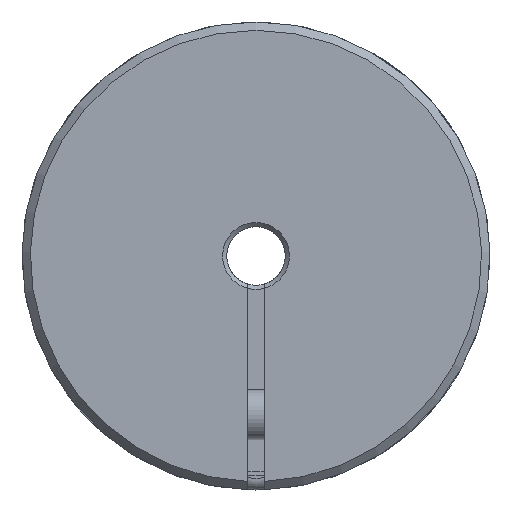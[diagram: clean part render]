
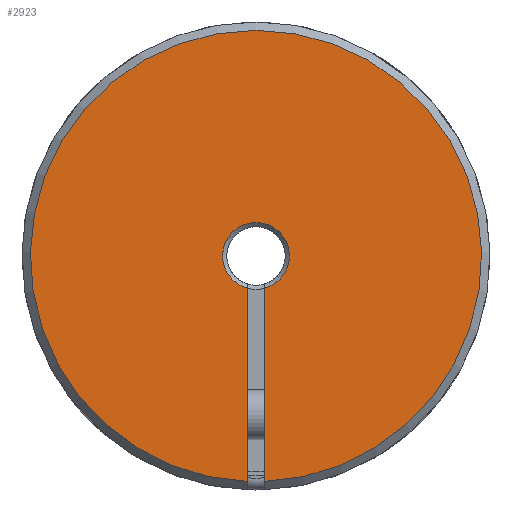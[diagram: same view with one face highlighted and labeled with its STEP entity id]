
A CAD part, left-side view. The second image highlights one B-rep face of the part: STEP entity #2923.
In plain terms, the highlighted planar face has unit normal (-1, 0, 0).
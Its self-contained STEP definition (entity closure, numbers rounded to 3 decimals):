
#122=PLANE('',#3241);
#319=LINE('',#4907,#545);
#320=LINE('',#4909,#546);
#545=VECTOR('',#3917,1000.);
#546=VECTOR('',#3918,1000.);
#1030=ORIENTED_EDGE('',*,*,#1657,.F.);
#1031=ORIENTED_EDGE('',*,*,#1655,.F.);
#1032=ORIENTED_EDGE('',*,*,#1658,.F.);
#1033=ORIENTED_EDGE('',*,*,#1659,.T.);
#1655=EDGE_CURVE('',#2004,#2005,#2169,.T.);
#1657=EDGE_CURVE('',#2005,#2006,#319,.T.);
#1658=EDGE_CURVE('',#2007,#2004,#320,.T.);
#1659=EDGE_CURVE('',#2007,#2006,#2170,.T.);
#2004=VERTEX_POINT('',#4899);
#2005=VERTEX_POINT('',#4901);
#2006=VERTEX_POINT('',#4908);
#2007=VERTEX_POINT('',#4910);
#2169=CIRCLE('',#3240,4.);
#2170=CIRCLE('',#3242,27.);
#2382=EDGE_LOOP('',(#1030,#1031,#1032,#1033));
#2681=FACE_BOUND('',#2382,.T.);
#2923=ADVANCED_FACE('',(#2681),#122,.T.);
#3240=AXIS2_PLACEMENT_3D('',#4900,#3913,#3914);
#3241=AXIS2_PLACEMENT_3D('',#4906,#3915,#3916);
#3242=AXIS2_PLACEMENT_3D('',#4911,#3919,#3920);
#3913=DIRECTION('',(-1.,0.,0.));
#3914=DIRECTION('',(0.,0.,1.));
#3915=DIRECTION('',(-1.,0.,0.));
#3916=DIRECTION('',(0.,0.,1.));
#3917=DIRECTION('',(0.,0.,-1.));
#3918=DIRECTION('',(0.,0.,1.));
#3919=DIRECTION('',(-1.,0.,0.));
#3920=DIRECTION('',(0.,0.,1.));
#4899=CARTESIAN_POINT('',(-36.191,-1.,-3.873));
#4900=CARTESIAN_POINT('',(-36.191,0.,0.));
#4901=CARTESIAN_POINT('',(-36.191,1.,-3.873));
#4906=CARTESIAN_POINT('',(-36.191,0.,3.5));
#4907=CARTESIAN_POINT('',(-36.191,1.,-3.354));
#4908=CARTESIAN_POINT('',(-36.191,1.,-26.981));
#4909=CARTESIAN_POINT('',(-36.191,-1.,-3.354));
#4910=CARTESIAN_POINT('',(-36.191,-1.,-26.981));
#4911=CARTESIAN_POINT('',(-36.191,0.,0.));
